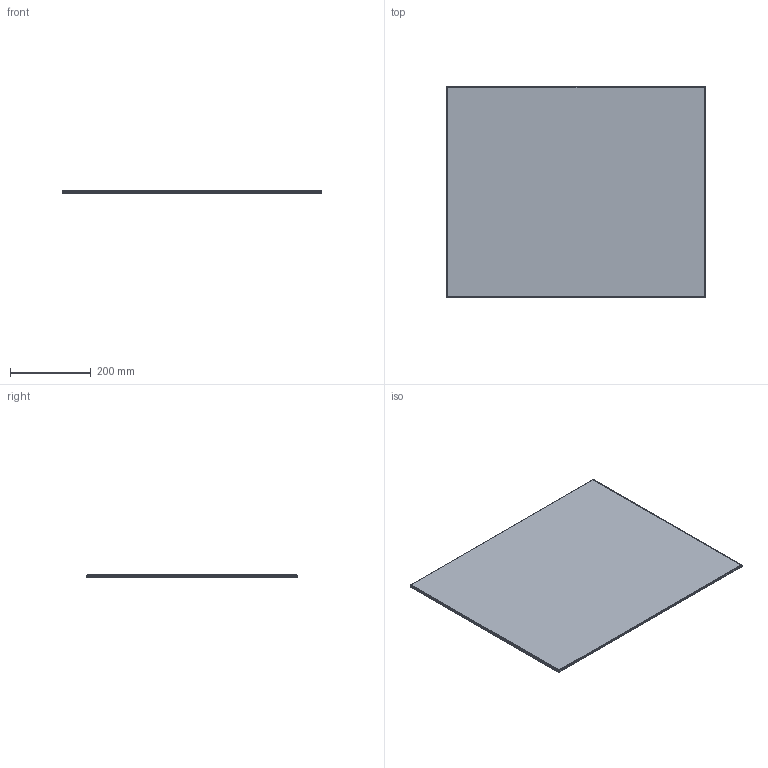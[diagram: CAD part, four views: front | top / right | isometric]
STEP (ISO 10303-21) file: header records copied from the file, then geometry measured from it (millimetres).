
FILE_DESCRIPTION (( 'STEP AP203' ), '1' );
FILE_NAME ('463149_HI1655G.STEP', '2014-07-14T17:20:43', ( '' ), ( '' ), 'SwSTEP 2.0', 'SolidWorks 2012', '' );
FILE_SCHEMA (( 'CONFIG_CONTROL_DESIGN' ));
Length unit declared in the file: millimetre
Products named in the file (6): ROBNIK ATAG LEVI; 461656_HI1633G_STEKLO; 463149_HI1655G; MirrorROBNIK ATAG sprednji_zadnji; ROBNIK ATAG sprednji_zadnji; MirrorROBNIK ATAG LEVI1
Assembly tree (5 placements, depth 2):
  463149_HI1655G
    461656_HI1633G_STEKLO
    ROBNIK ATAG LEVI
    MirrorROBNIK ATAG LEVI1
    ROBNIK ATAG sprednji_zadnji
    MirrorROBNIK ATAG sprednji_zadnji
Bounding box: 643.89 x 522 x 6.45 mm (x, y, z)
Volume: 1383937.1 mm3; surface area: 750182.5 mm2
Topology: 5 solids, 5 shells, 153 faces, 428 edges, 285 vertices
Faces by surface type: plane 80, cylinder 70, bspline 3
Entity records: 5695 total; most frequent: CARTESIAN_POINT 1045, DIRECTION 860, ORIENTED_EDGE 856, EDGE_CURVE 428, AXIS2_PLACEMENT_3D 290, VERTEX_POINT 285, LINE 280, VECTOR 280
